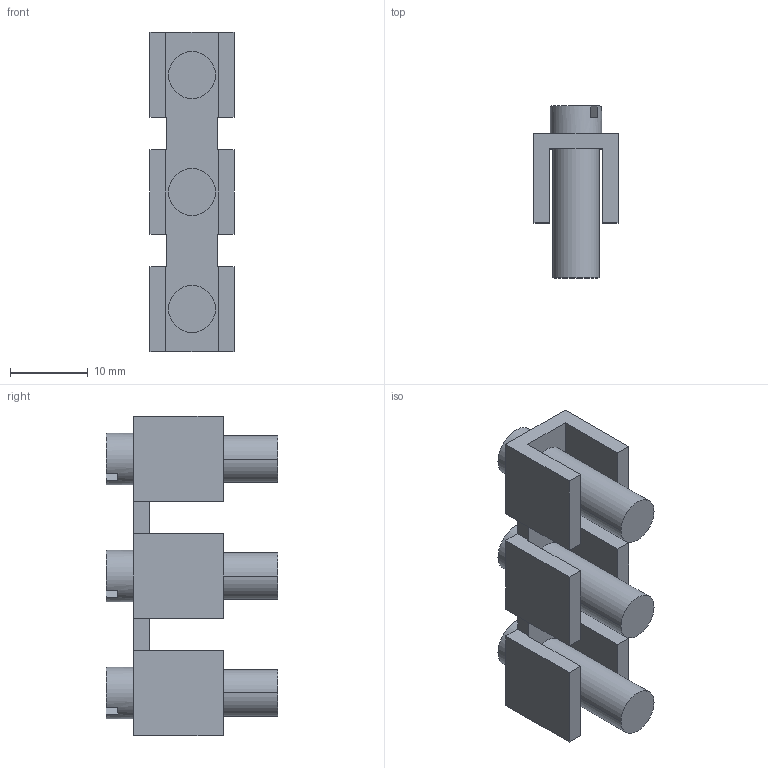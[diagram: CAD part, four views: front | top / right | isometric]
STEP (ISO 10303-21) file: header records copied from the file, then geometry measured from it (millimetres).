
FILE_DESCRIPTION( ('This file contains a STEP AP42 implementation' ,'as created by ZW3D STEP Interface translator.') ,'2;1' );
FILE_NAME( 'FBI 3-15桥接件-模型.stp' ,'231227.164759', (''), ('ZWCAD Software Co.'), 'Version 1.0', 'ZW3D to STEP translator', '' );
FILE_SCHEMA(('AUTOMOTIVE_DESIGN { 1 0 10303 214 1 1 1 1 }'));
Length unit declared in the file: millimetre
Products named in the file (2): 0; FBI_3-15-select
Bounding box: 10.78 x 22 x 41 mm (x, y, z)
Volume: 3774.2 mm3; surface area: 3718.5 mm2
Topology: 1 solids, 1 shells, 61 faces, 159 edges, 106 vertices
Faces by surface type: plane 52, cylinder 9
Full cylindrical faces by diameter (mm): 6.6 x3
Entity records: 1954 total; most frequent: CARTESIAN_POINT 327, ORIENTED_EDGE 318, DIRECTION 313, EDGE_CURVE 159, VECTOR 129, LINE 129, VERTEX_POINT 106, AXIS2_PLACEMENT_3D 92
